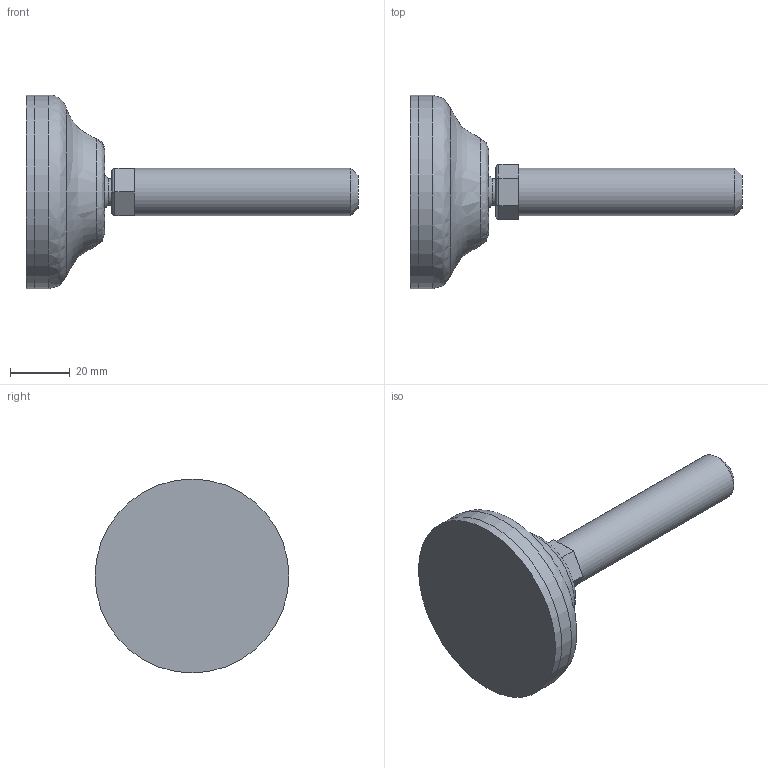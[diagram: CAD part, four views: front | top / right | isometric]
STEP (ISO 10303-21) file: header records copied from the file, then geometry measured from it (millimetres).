
FILE_DESCRIPTION(('STEP AP203'),'2;1');
FILE_NAME('10283.stp','2015-11-24T07:28:41',(''),(''),'2008.1.107','THINKDESIGN','');
FILE_SCHEMA(('CONFIG_CONTROL_DESIGN'));
Length unit declared in the file: millimetre
Bounding box: 111.32 x 65 x 65 mm (x, y, z)
Volume: 77429.9 mm3; surface area: 21458.3 mm2
Topology: 5 solids, 5 shells, 31 faces, 65 edges, 44 vertices
Faces by surface type: plane 16, cylinder 10, bspline 5
Full cylindrical faces by diameter (mm): 9.087 x1, 16 x1, 65 x2
Entity records: 1170 total; most frequent: CARTESIAN_POINT 411, DIRECTION 141, ORIENTED_EDGE 130, EDGE_CURVE 65, AXIS2_PLACEMENT_3D 56, VERTEX_POINT 44, EDGE_LOOP 31, FACE_OUTER_BOUND 31
